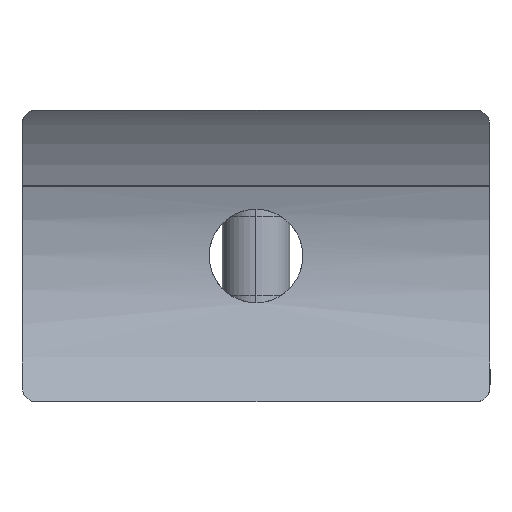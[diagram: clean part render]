
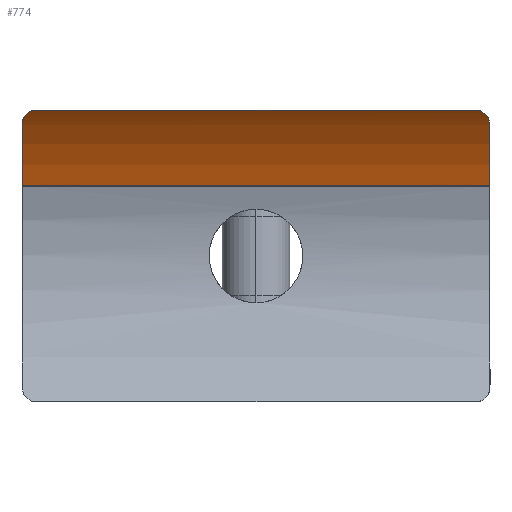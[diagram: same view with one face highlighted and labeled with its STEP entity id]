
A CAD part, left-side view. The second image highlights one B-rep face of the part: STEP entity #774.
In plain terms, the highlighted cylindrical face has radius 21.2 mm (diameter 42.4 mm), a partial arc.
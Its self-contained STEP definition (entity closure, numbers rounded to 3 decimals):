
#54 = CARTESIAN_POINT ( 'NONE',  ( -67.127, -22.5, 12.567 ) ) ;
#132 = DIRECTION ( 'NONE',  ( 0., 0., 1. ) ) ;
#150 = CARTESIAN_POINT ( 'NONE',  ( -68.28, -21.465, 14. ) ) ;
#185 = CYLINDRICAL_SURFACE ( 'NONE', #2875, 21.2 ) ;
#322 = CARTESIAN_POINT ( 'NONE',  ( -68.157, -21.789, 13.859 ) ) ;
#401 = ORIENTED_EDGE ( 'NONE', *, *, #970, .T. ) ;
#467 = DIRECTION ( 'NONE',  ( 0., -1., 0. ) ) ;
#497 = CARTESIAN_POINT ( 'NONE',  ( -67.986, 22.047, 13.659 ) ) ;
#532 = VERTEX_POINT ( 'NONE', #2636 ) ;
#759 = CIRCLE ( 'NONE', #1240, 21.2 ) ;
#774 = ADVANCED_FACE ( 'NONE', ( #2950 ), #185, .F. ) ;
#818 = CARTESIAN_POINT ( 'NONE',  ( -67.127, 22.5, 12.567 ) ) ;
#870 = CARTESIAN_POINT ( 'NONE',  ( -67.885, -22.157, 13.539 ) ) ;
#902 = EDGE_LOOP ( 'NONE', ( #1779, #401, #1435, #3362, #1169, #2485 ) ) ;
#926 = CARTESIAN_POINT ( 'NONE',  ( -67.348, -22.478, 12.864 ) ) ;
#941 = CARTESIAN_POINT ( 'NONE',  ( -67.237, -22.5, 12.718 ) ) ;
#946 = DIRECTION ( 'NONE',  ( 1., 0., 0. ) ) ;
#959 = DIRECTION ( 'NONE',  ( 0., -1., 0. ) ) ;
#970 = EDGE_CURVE ( 'NONE', #1194, #1539, #2652, .T. ) ;
#986 = VERTEX_POINT ( 'NONE', #2892 ) ;
#1111 = CIRCLE ( 'NONE', #2420, 21.2 ) ;
#1169 = ORIENTED_EDGE ( 'NONE', *, *, #3245, .F. ) ;
#1173 = CARTESIAN_POINT ( 'NONE',  ( -67.984, -22.049, 13.657 ) ) ;
#1194 = VERTEX_POINT ( 'NONE', #1451 ) ;
#1206 = CARTESIAN_POINT ( 'NONE',  ( -68.231, -21.637, 13.944 ) ) ;
#1240 = AXIS2_PLACEMENT_3D ( 'NONE', #1938, #2491, #3063 ) ;
#1291 = LINE ( 'NONE', #3031, #1507 ) ;
#1435 = ORIENTED_EDGE ( 'NONE', *, *, #2660, .T. ) ;
#1451 = CARTESIAN_POINT ( 'NONE',  ( -67.127, -22.5, 12.567 ) ) ;
#1499 = CARTESIAN_POINT ( 'NONE',  ( -68.28, -21.465, 14. ) ) ;
#1507 = VECTOR ( 'NONE', #467, 1000. ) ;
#1539 = VERTEX_POINT ( 'NONE', #150 ) ;
#1619 = CARTESIAN_POINT ( 'NONE',  ( -84.2, -39., 0. ) ) ;
#1653 = DIRECTION ( 'NONE',  ( 0., 1., 0. ) ) ;
#1730 = CARTESIAN_POINT ( 'NONE',  ( -67.679, -22.327, 13.286 ) ) ;
#1733 = VERTEX_POINT ( 'NONE', #2077 ) ;
#1770 = CARTESIAN_POINT ( 'NONE',  ( -84.2, 22.5, 0. ) ) ;
#1779 = ORIENTED_EDGE ( 'NONE', *, *, #3593, .F. ) ;
#1930 = LINE ( 'NONE', #3056, #3638 ) ;
#1938 = CARTESIAN_POINT ( 'NONE',  ( -84.2, -22.5, 0. ) ) ;
#2077 = CARTESIAN_POINT ( 'NONE',  ( -64.103, 22.5, 6.75 ) ) ;
#2229 = CARTESIAN_POINT ( 'NONE',  ( -68.231, 21.636, 13.944 ) ) ;
#2283 = CARTESIAN_POINT ( 'NONE',  ( -68.159, 21.786, 13.861 ) ) ;
#2420 = AXIS2_PLACEMENT_3D ( 'NONE', #1770, #959, #946 ) ;
#2485 = ORIENTED_EDGE ( 'NONE', *, *, #2974, .T. ) ;
#2491 = DIRECTION ( 'NONE',  ( 0., 1., 0. ) ) ;
#2580 = CARTESIAN_POINT ( 'NONE',  ( -67.569, -22.392, 13.148 ) ) ;
#2636 = CARTESIAN_POINT ( 'NONE',  ( -67.127, 22.5, 12.567 ) ) ;
#2652 = B_SPLINE_CURVE_WITH_KNOTS ( 'NONE', 3,
 ( #54, #941, #926, #2580, #1730, #870, #1173, #322, #1206, #1499 ),
 .UNSPECIFIED., .F., .F.,
 ( 4, 2, 2, 2, 4 ),
 ( 0., 0.001, 0.001, 0.002, 0.002 ),
 .UNSPECIFIED. ) ;
#2660 = EDGE_CURVE ( 'NONE', #1539, #2883, #1930, .T. ) ;
#2727 = DIRECTION ( 'NONE',  ( 0., 1., 0. ) ) ;
#2875 = AXIS2_PLACEMENT_3D ( 'NONE', #1619, #2727, #132 ) ;
#2883 = VERTEX_POINT ( 'NONE', #3164 ) ;
#2892 = CARTESIAN_POINT ( 'NONE',  ( -64.103, -22.5, 6.75 ) ) ;
#2950 = FACE_OUTER_BOUND ( 'NONE', #902, .T. ) ;
#2974 = EDGE_CURVE ( 'NONE', #1733, #986, #1291, .T. ) ;
#3031 = CARTESIAN_POINT ( 'NONE',  ( -64.103, -39., 6.75 ) ) ;
#3056 = CARTESIAN_POINT ( 'NONE',  ( -68.28, -39., 14. ) ) ;
#3063 = DIRECTION ( 'NONE',  ( 0., 0., 1. ) ) ;
#3164 = CARTESIAN_POINT ( 'NONE',  ( -68.28, 21.465, 14. ) ) ;
#3245 = EDGE_CURVE ( 'NONE', #1733, #532, #1111, .T. ) ;
#3362 = ORIENTED_EDGE ( 'NONE', *, *, #3523, .T. ) ;
#3394 = CARTESIAN_POINT ( 'NONE',  ( -68.28, 21.465, 14. ) ) ;
#3418 = CARTESIAN_POINT ( 'NONE',  ( -67.348, 22.5, 12.868 ) ) ;
#3495 = B_SPLINE_CURVE_WITH_KNOTS ( 'NONE', 3,
 ( #3394, #2229, #2283, #497, #3622, #3677, #3418, #818 ),
 .UNSPECIFIED., .F., .F.,
 ( 4, 2, 2, 4 ),
 ( 0., 0.001, 0.001, 0.002 ),
 .UNSPECIFIED. ) ;
#3523 = EDGE_CURVE ( 'NONE', #2883, #532, #3495, .T. ) ;
#3593 = EDGE_CURVE ( 'NONE', #1194, #986, #759, .T. ) ;
#3622 = CARTESIAN_POINT ( 'NONE',  ( -67.887, 22.155, 13.541 ) ) ;
#3638 = VECTOR ( 'NONE', #1653, 1000. ) ;
#3677 = CARTESIAN_POINT ( 'NONE',  ( -67.575, 22.413, 13.159 ) ) ;
